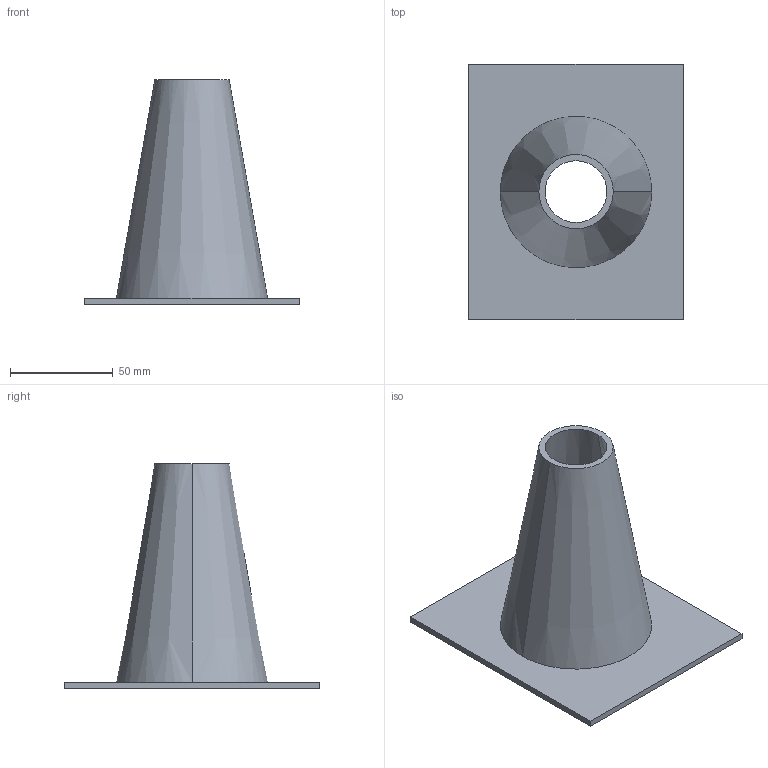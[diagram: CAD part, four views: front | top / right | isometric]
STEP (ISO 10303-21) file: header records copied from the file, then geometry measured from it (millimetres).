
FILE_DESCRIPTION(('CATIA V5 STEP Exchange'),'2;1');
FILE_NAME('C:\_Andres\UNIVERSIDAD\IQS\ASIGNATURAS\DAO\EXF\EXF-15161c\1original\Mas_Oliver_Ej08-ensambla_v14.stp','2016-03-04T21:37:17+00:00',('none'),('none'),'CATIA Version 5 Release 20 SP 1 (IN-10)','CATIA V5 STEP AP203','none');
FILE_SCHEMA(('CONFIG_CONTROL_DESIGN'));
Length unit declared in the file: millimetre
Products named in the file (1): Mas_Oliver_Ej08-ensambla_v14
Bounding box: 104 x 124 x 109 mm (x, y, z)
Volume: 80305.1 mm3; surface area: 55196.8 mm2
Topology: 1 solids, 1 shells, 11 faces, 24 edges, 16 vertices
Faces by surface type: plane 7, cone 4
Entity records: 414 total; most frequent: CARTESIAN_POINT 127, ORIENTED_EDGE 48, DIRECTION 44, EDGE_CURVE 24, AXIS2_PLACEMENT_3D 17, VECTOR 16, LINE 16, VERTEX_POINT 16
